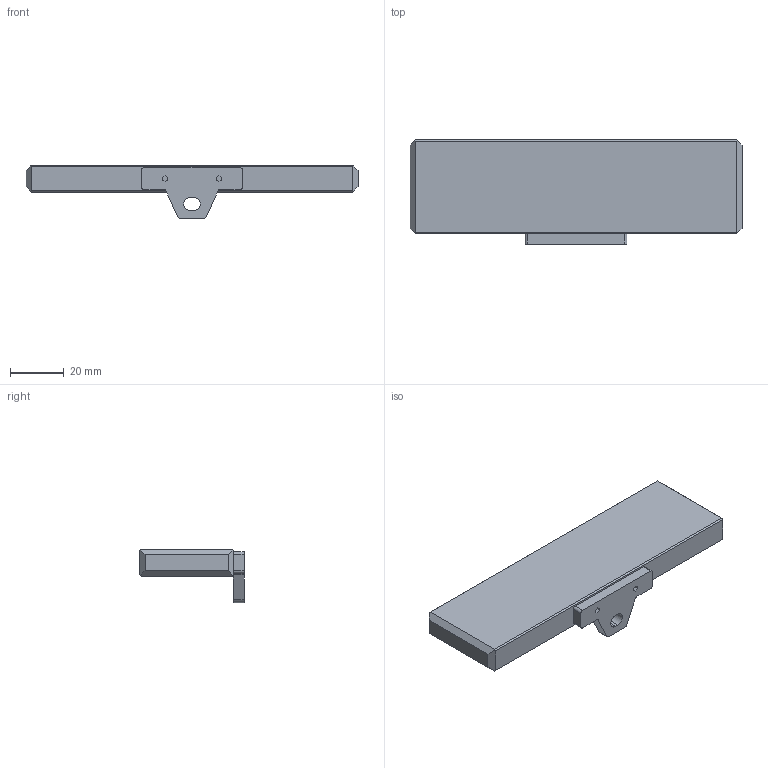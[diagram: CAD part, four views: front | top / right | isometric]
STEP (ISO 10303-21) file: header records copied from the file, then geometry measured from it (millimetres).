
FILE_DESCRIPTION((''),'2;1');
FILE_NAME('FG_VC_BASIC_C0027NP001','2026-02-23T17:12:18',('Admin'),(''),'CREO PARAMETRIC BY PTC INC, 2025010','CREO PARAMETRIC BY PTC INC, 2025010','');
FILE_SCHEMA(('CONFIG_CONTROL_DESIGN'));
Length unit declared in the file: millimetre
Products named in the file (1): FG_VC_BASIC_C0027NP001
Bounding box: 124 x 39 x 20 mm (x, y, z)
Volume: 44705.9 mm3; surface area: 12447.9 mm2
Topology: 1 solids, 5 shells, 78 faces, 198 edges, 126 vertices
Faces by surface type: plane 48, cylinder 22, cone 8
Entity records: 2348 total; most frequent: DIRECTION 398, CARTESIAN_POINT 398, ORIENTED_EDGE 388, EDGE_CURVE 194, VECTOR 146, LINE 146, AXIS2_PLACEMENT_3D 126, VERTEX_POINT 126
